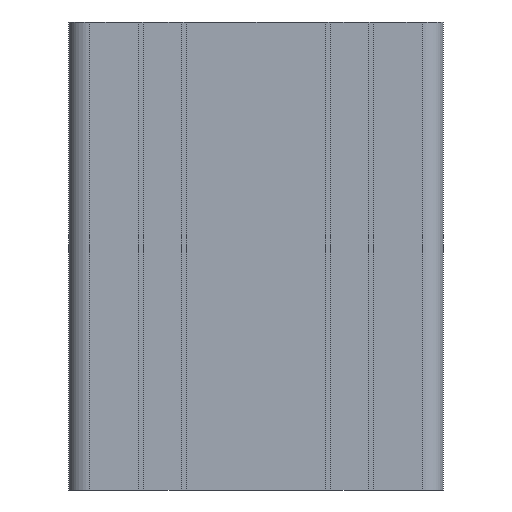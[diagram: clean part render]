
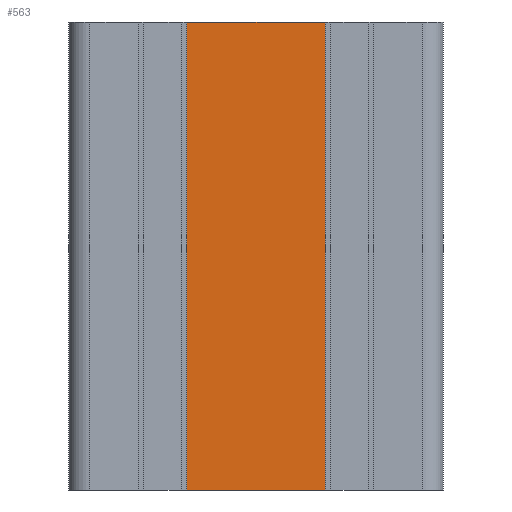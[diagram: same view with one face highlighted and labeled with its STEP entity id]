
A CAD part, front view. The second image highlights one B-rep face of the part: STEP entity #563.
In plain terms, the highlighted planar face has unit normal (0, -1, 0).
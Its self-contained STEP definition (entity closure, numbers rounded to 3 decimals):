
#45 = ORIENTED_EDGE ( 'NONE', *, *, #3209, .T. ) ;
#127 = LINE ( 'NONE', #1305, #3366 ) ;
#242 = CARTESIAN_POINT ( 'NONE',  ( 34.85, -20., -100. ) ) ;
#364 = VERTEX_POINT ( 'NONE', #3186 ) ;
#425 = CARTESIAN_POINT ( 'NONE',  ( 20., -20., -100. ) ) ;
#433 = VERTEX_POINT ( 'NONE', #2822 ) ;
#563 = ADVANCED_FACE ( 'NONE', ( #2942 ), #2805, .T. ) ;
#580 = VECTOR ( 'NONE', #2067, 1000. ) ;
#815 = LINE ( 'NONE', #1209, #4848 ) ;
#1209 = CARTESIAN_POINT ( 'NONE',  ( 34.85, -20., -100. ) ) ;
#1228 = DIRECTION ( 'NONE',  ( 1., 0., 0. ) ) ;
#1305 = CARTESIAN_POINT ( 'NONE',  ( 5.15, -20., -100. ) ) ;
#1329 = EDGE_CURVE ( 'NONE', #433, #1746, #2757, .T. ) ;
#1412 = CARTESIAN_POINT ( 'NONE',  ( 20., -20., 0. ) ) ;
#1525 = VERTEX_POINT ( 'NONE', #242 ) ;
#1693 = ORIENTED_EDGE ( 'NONE', *, *, #1329, .F. ) ;
#1727 = DIRECTION ( 'NONE',  ( 0., 0., 1. ) ) ;
#1746 = VERTEX_POINT ( 'NONE', #4438 ) ;
#2067 = DIRECTION ( 'NONE',  ( 1., 0., 0. ) ) ;
#2221 = ORIENTED_EDGE ( 'NONE', *, *, #3669, .T. ) ;
#2460 = VECTOR ( 'NONE', #4409, 1000. ) ;
#2469 = CARTESIAN_POINT ( 'NONE',  ( 20., -20., -100. ) ) ;
#2757 = LINE ( 'NONE', #1412, #2460 ) ;
#2805 = PLANE ( 'NONE',  #4159 ) ;
#2822 = CARTESIAN_POINT ( 'NONE',  ( 5.15, -20., 0. ) ) ;
#2942 = FACE_OUTER_BOUND ( 'NONE', #3125, .T. ) ;
#2988 = ORIENTED_EDGE ( 'NONE', *, *, #4302, .F. ) ;
#3125 = EDGE_LOOP ( 'NONE', ( #2988, #2221, #45, #1693 ) ) ;
#3186 = CARTESIAN_POINT ( 'NONE',  ( 5.15, -20., -100. ) ) ;
#3209 = EDGE_CURVE ( 'NONE', #1525, #1746, #815, .T. ) ;
#3366 = VECTOR ( 'NONE', #1727, 1000. ) ;
#3509 = DIRECTION ( 'NONE',  ( 0., -1., 0. ) ) ;
#3642 = LINE ( 'NONE', #2469, #580 ) ;
#3669 = EDGE_CURVE ( 'NONE', #364, #1525, #3642, .T. ) ;
#3860 = DIRECTION ( 'NONE',  ( 0., 0., 1. ) ) ;
#4159 = AXIS2_PLACEMENT_3D ( 'NONE', #425, #3509, #1228 ) ;
#4302 = EDGE_CURVE ( 'NONE', #364, #433, #127, .T. ) ;
#4409 = DIRECTION ( 'NONE',  ( 1., 0., 0. ) ) ;
#4438 = CARTESIAN_POINT ( 'NONE',  ( 34.85, -20., 0. ) ) ;
#4848 = VECTOR ( 'NONE', #3860, 1000. ) ;
